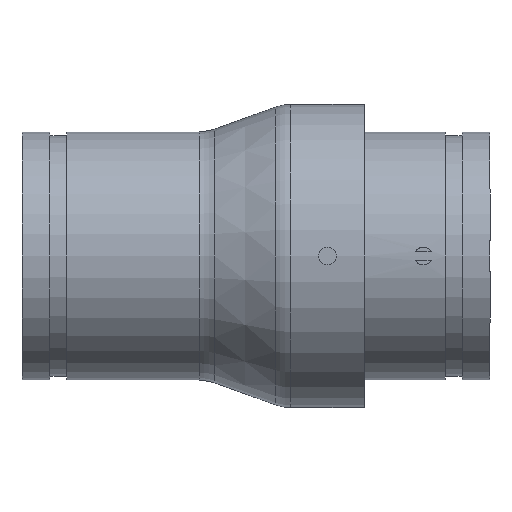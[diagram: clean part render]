
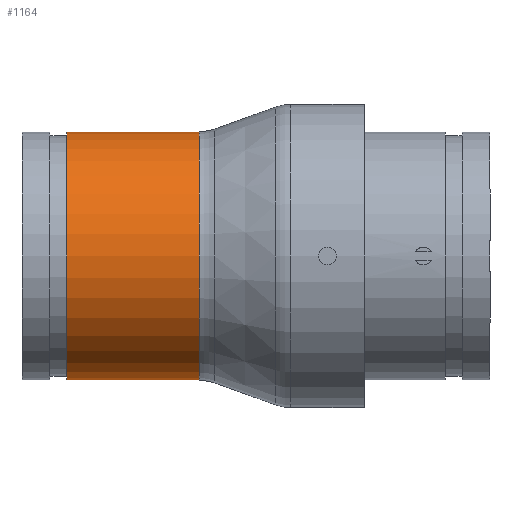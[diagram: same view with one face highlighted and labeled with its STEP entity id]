
A CAD part, front view. The second image highlights one B-rep face of the part: STEP entity #1164.
In plain terms, the highlighted cylindrical face has radius 70.65 mm (diameter 141.3 mm), a full revolution.
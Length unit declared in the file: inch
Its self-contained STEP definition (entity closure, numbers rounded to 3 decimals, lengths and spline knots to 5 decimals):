
#27=B_SPLINE_CURVE_WITH_KNOTS('',3,(#1964,#1965,#1966,#1967,#1968,#1969,
#1970,#1971,#1972,#1973,#1974,#1975,#1976,#1977,#1978,#1979,#1980,#1981),
 .UNSPECIFIED.,.F.,.F.,(4,2,2,2,2,2,2,2,4),(22.96976,23.81286,
24.92725,26.04165,27.15604,28.27044,29.38483,
30.49923,31.34233),.UNSPECIFIED.);
#97=CIRCLE('',#1296,2.7815);
#98=CIRCLE('',#1297,2.7815);
#105=CIRCLE('',#1307,2.7815);
#106=CIRCLE('',#1308,2.7815);
#107=CIRCLE('',#1310,2.7815);
#108=CIRCLE('',#1311,2.7815);
#174=FACE_OUTER_BOUND('',#241,.T.);
#241=EDGE_LOOP('',(#904,#905,#906,#907,#908,#909,#910,#911,#912,#913,#914));
#294=ELLIPSE('',#1306,10.75547,2.7815);
#295=ELLIPSE('',#1309,10.75547,2.7815);
#360=LINE('',#2016,#434);
#434=VECTOR('',#1615,2.7815);
#512=VERTEX_POINT('',#1961);
#513=VERTEX_POINT('',#1963);
#516=VERTEX_POINT('',#1991);
#517=VERTEX_POINT('',#1992);
#518=VERTEX_POINT('',#1994);
#523=VERTEX_POINT('',#2009);
#524=VERTEX_POINT('',#2012);
#525=VERTEX_POINT('',#2015);
#526=VERTEX_POINT('',#2017);
#652=EDGE_CURVE('',#513,#512,#27,.T.);
#657=EDGE_CURVE('',#516,#517,#97,.T.);
#658=EDGE_CURVE('',#517,#518,#98,.T.);
#666=EDGE_CURVE('',#523,#516,#294,.T.);
#667=EDGE_CURVE('',#523,#513,#105,.T.);
#668=EDGE_CURVE('',#512,#524,#106,.T.);
#669=EDGE_CURVE('',#518,#524,#295,.T.);
#670=EDGE_CURVE('',#517,#525,#360,.T.);
#671=EDGE_CURVE('',#525,#526,#107,.T.);
#672=EDGE_CURVE('',#526,#525,#108,.T.);
#904=ORIENTED_EDGE('',*,*,#657,.F.);
#905=ORIENTED_EDGE('',*,*,#666,.F.);
#906=ORIENTED_EDGE('',*,*,#667,.T.);
#907=ORIENTED_EDGE('',*,*,#652,.T.);
#908=ORIENTED_EDGE('',*,*,#668,.T.);
#909=ORIENTED_EDGE('',*,*,#669,.F.);
#910=ORIENTED_EDGE('',*,*,#658,.F.);
#911=ORIENTED_EDGE('',*,*,#670,.T.);
#912=ORIENTED_EDGE('',*,*,#671,.T.);
#913=ORIENTED_EDGE('',*,*,#672,.T.);
#914=ORIENTED_EDGE('',*,*,#670,.F.);
#1046=CYLINDRICAL_SURFACE('',#1305,2.7815);
#1164=ADVANCED_FACE('',(#174),#1046,.T.);
#1296=AXIS2_PLACEMENT_3D('',#1993,#1586,#1587);
#1297=AXIS2_PLACEMENT_3D('',#1995,#1588,#1589);
#1305=AXIS2_PLACEMENT_3D('',#2008,#1605,#1606);
#1306=AXIS2_PLACEMENT_3D('',#2010,#1607,#1608);
#1307=AXIS2_PLACEMENT_3D('',#2011,#1609,#1610);
#1308=AXIS2_PLACEMENT_3D('',#2013,#1611,#1612);
#1309=AXIS2_PLACEMENT_3D('',#2014,#1613,#1614);
#1310=AXIS2_PLACEMENT_3D('',#2018,#1616,#1617);
#1311=AXIS2_PLACEMENT_3D('',#2019,#1618,#1619);
#1586=DIRECTION('center_axis',(1.,0.,0.));
#1587=DIRECTION('ref_axis',(0.,-1.,0.));
#1588=DIRECTION('center_axis',(1.,0.,0.));
#1589=DIRECTION('ref_axis',(0.,-1.,0.));
#1605=DIRECTION('center_axis',(1.,0.,0.));
#1606=DIRECTION('ref_axis',(0.,1.,0.));
#1607=DIRECTION('center_axis',(0.259,0.,-0.966));
#1608=DIRECTION('ref_axis',(0.966,0.,0.259));
#1609=DIRECTION('center_axis',(-1.,0.,0.));
#1610=DIRECTION('ref_axis',(0.,1.,0.));
#1611=DIRECTION('center_axis',(-1.,0.,0.));
#1612=DIRECTION('ref_axis',(0.,1.,0.));
#1613=DIRECTION('center_axis',(0.259,0.,0.966));
#1614=DIRECTION('ref_axis',(0.966,0.,-0.259));
#1615=DIRECTION('',(-1.,0.,0.));
#1616=DIRECTION('center_axis',(1.,0.,0.));
#1617=DIRECTION('ref_axis',(0.,0.,-1.));
#1618=DIRECTION('center_axis',(1.,0.,0.));
#1619=DIRECTION('ref_axis',(0.,0.,-1.));
#1961=CARTESIAN_POINT('',(2.35,2.34724,-1.49238));
#1963=CARTESIAN_POINT('',(2.35,2.34724,1.49238));
#1964=CARTESIAN_POINT('Ctrl Pts',(2.35,2.34724,1.49238));
#1965=CARTESIAN_POINT('Ctrl Pts',(2.28119,2.39502,1.41723));
#1966=CARTESIAN_POINT('Ctrl Pts',(2.21548,2.44223,1.33494));
#1967=CARTESIAN_POINT('Ctrl Pts',(2.07514,2.54523,1.12946));
#1968=CARTESIAN_POINT('Ctrl Pts',(2.00448,2.59884,1.00155));
#1969=CARTESIAN_POINT('Ctrl Pts',(1.88913,2.68757,0.73075));
#1970=CARTESIAN_POINT('Ctrl Pts',(1.84432,2.72276,0.58756));
#1971=CARTESIAN_POINT('Ctrl Pts',(1.78475,2.76974,0.29531));
#1972=CARTESIAN_POINT('Ctrl Pts',(1.77,2.7815,0.14625));
#1973=CARTESIAN_POINT('Ctrl Pts',(1.77,2.7815,-0.14625));
#1974=CARTESIAN_POINT('Ctrl Pts',(1.78475,2.76974,-0.29531));
#1975=CARTESIAN_POINT('Ctrl Pts',(1.84432,2.72276,-0.58756));
#1976=CARTESIAN_POINT('Ctrl Pts',(1.88913,2.68757,-0.73075));
#1977=CARTESIAN_POINT('Ctrl Pts',(2.00448,2.59884,-1.00155));
#1978=CARTESIAN_POINT('Ctrl Pts',(2.07514,2.54523,-1.12946));
#1979=CARTESIAN_POINT('Ctrl Pts',(2.21548,2.44223,-1.33494));
#1980=CARTESIAN_POINT('Ctrl Pts',(2.28119,2.39502,-1.41723));
#1981=CARTESIAN_POINT('Ctrl Pts',(2.35,2.34724,-1.49238));
#1991=CARTESIAN_POINT('',(3.97436,0.,2.7815));
#1992=CARTESIAN_POINT('',(3.97436,-2.7815,0.));
#1993=CARTESIAN_POINT('Origin',(3.97436,0.,0.));
#1994=CARTESIAN_POINT('',(3.97436,0.,-2.7815));
#1995=CARTESIAN_POINT('Origin',(3.97436,0.,0.));
#2008=CARTESIAN_POINT('Origin',(5.25,0.,0.));
#2009=CARTESIAN_POINT('',(2.35,1.49335,2.34663));
#2010=CARTESIAN_POINT('Origin',(-6.41523,0.,0.));
#2011=CARTESIAN_POINT('Origin',(2.35,0.,0.));
#2012=CARTESIAN_POINT('',(2.35,1.49335,-2.34663));
#2013=CARTESIAN_POINT('Origin',(2.35,0.,0.));
#2014=CARTESIAN_POINT('Origin',(-6.41523,0.,0.));
#2015=CARTESIAN_POINT('',(1.,-2.7815,0.));
#2016=CARTESIAN_POINT('',(5.25,-2.7815,0.));
#2017=CARTESIAN_POINT('',(1.,2.7815,0.));
#2018=CARTESIAN_POINT('Origin',(1.,0.,0.));
#2019=CARTESIAN_POINT('Origin',(1.,0.,0.));
